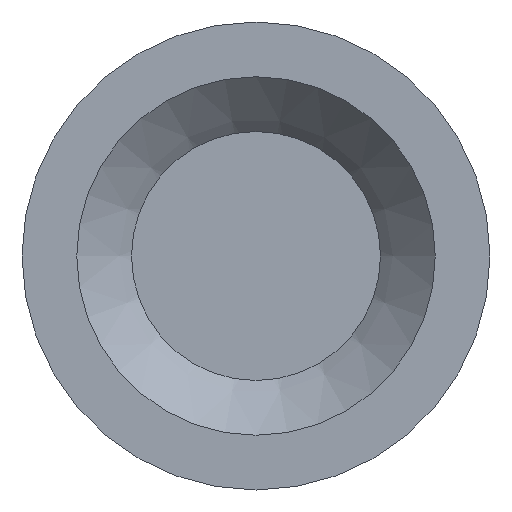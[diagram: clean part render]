
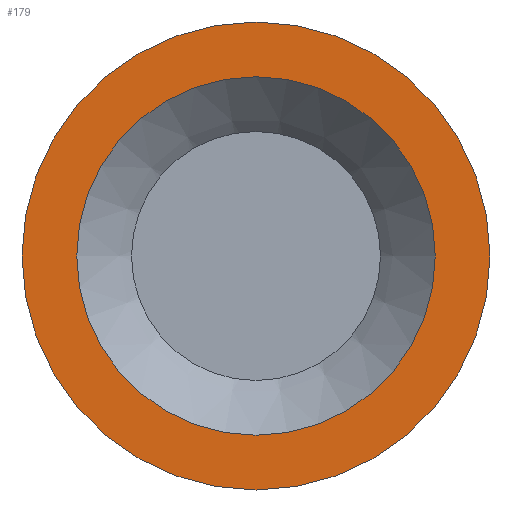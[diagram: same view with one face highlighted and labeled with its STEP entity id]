
A CAD part, left-side view. The second image highlights one B-rep face of the part: STEP entity #179.
In plain terms, the highlighted planar face has unit normal (-1, 0, 0).
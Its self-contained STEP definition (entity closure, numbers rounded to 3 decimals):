
#15=PLANE($,#205);
#28=FACE_BOUND($,#65,.T.);
#44=FACE_OUTER_BOUND($,#64,.T.);
#64=EDGE_LOOP($,(#144));
#65=EDGE_LOOP($,(#145));
#91=CIRCLE($,#204,0.914);
#92=CIRCLE($,#206,1.194);
#107=VERTEX_POINT($,#311);
#108=VERTEX_POINT($,#314);
#123=EDGE_CURVE($,#107,#107,#91,.T.);
#124=EDGE_CURVE($,#108,#108,#92,.T.);
#144=ORIENTED_EDGE($,*,*,#124,.F.);
#145=ORIENTED_EDGE($,*,*,#123,.T.);
#179=ADVANCED_FACE($,(#44,#28),#15,.T.);
#204=AXIS2_PLACEMENT_3D($,#312,#249,#250);
#205=AXIS2_PLACEMENT_3D($,#313,#251,#252);
#206=AXIS2_PLACEMENT_3D($,#315,#253,#254);
#249=DIRECTION('center_axis',(1.,0.,0.));
#250=DIRECTION('ref_axis',(0.,1.,0.));
#251=DIRECTION('center_axis',(-1.,0.,0.));
#252=DIRECTION('ref_axis',(0.,0.,1.));
#253=DIRECTION('center_axis',(1.,0.,0.));
#254=DIRECTION('ref_axis',(0.,1.,0.));
#311=CARTESIAN_POINT('',(7.338,0.914,0.));
#312=CARTESIAN_POINT('Origin',(7.338,0.,0.));
#313=CARTESIAN_POINT('Origin',(7.338,1.054,0.));
#314=CARTESIAN_POINT('',(7.338,1.194,0.));
#315=CARTESIAN_POINT('Origin',(7.338,0.,0.));
